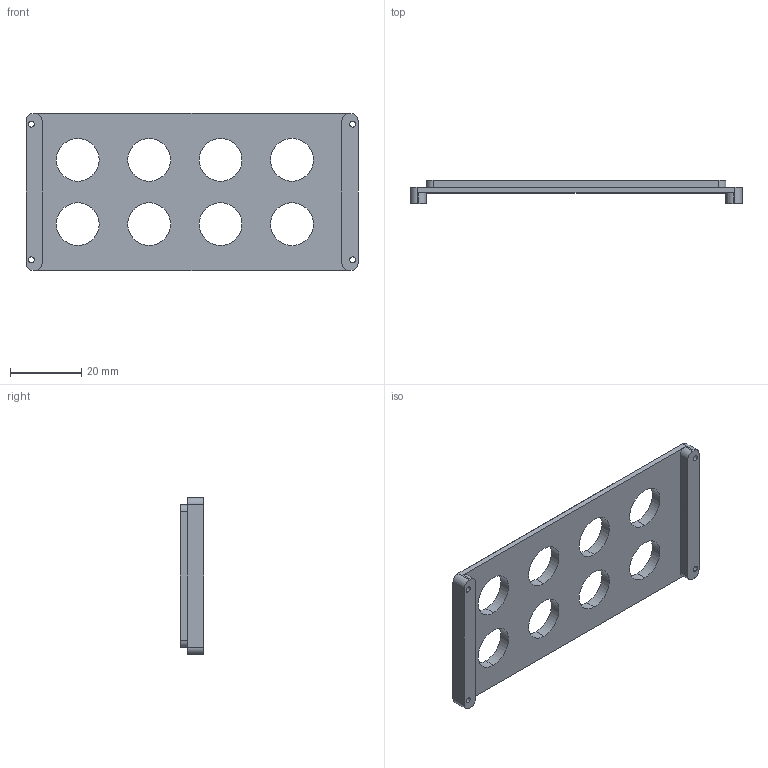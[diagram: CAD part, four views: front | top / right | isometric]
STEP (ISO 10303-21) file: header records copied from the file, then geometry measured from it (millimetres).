
FILE_DESCRIPTION (( 'STEP AP203' ), '1' );
FILE_NAME ('干扰枪-开关面板-.STEP', '2026-09-24T09:10:02', ( '' ), ( '' ), 'SwSTEP 2.0', 'SolidWorks 2016', '' );
FILE_SCHEMA (( 'CONFIG_CONTROL_DESIGN' ));
Length unit declared in the file: millimetre
Products named in the file (1): 干扰枪-开关面板-
Bounding box: 93 x 6.5 x 44 mm (x, y, z)
Volume: 9672.6 mm3; surface area: 8852.4 mm2
Topology: 1 solids, 1 shells, 110 faces, 693 edges, 629 vertices
Faces by surface type: plane 62, cylinder 36, cone 12
Entity records: 10270 total; most frequent: CARTESIAN_POINT 4957, ORIENTED_EDGE 1386, DIRECTION 727, EDGE_CURVE 693, VERTEX_POINT 629, LINE 329, VECTOR 329, B_SPLINE_CURVE_WITH_KNOTS 276
